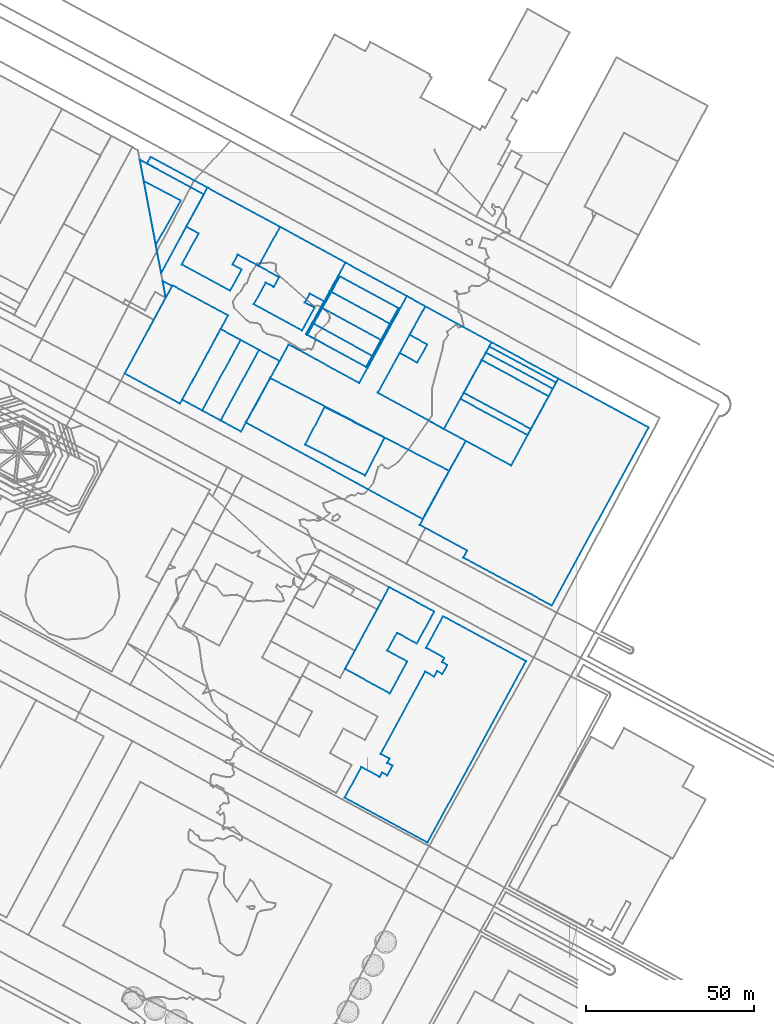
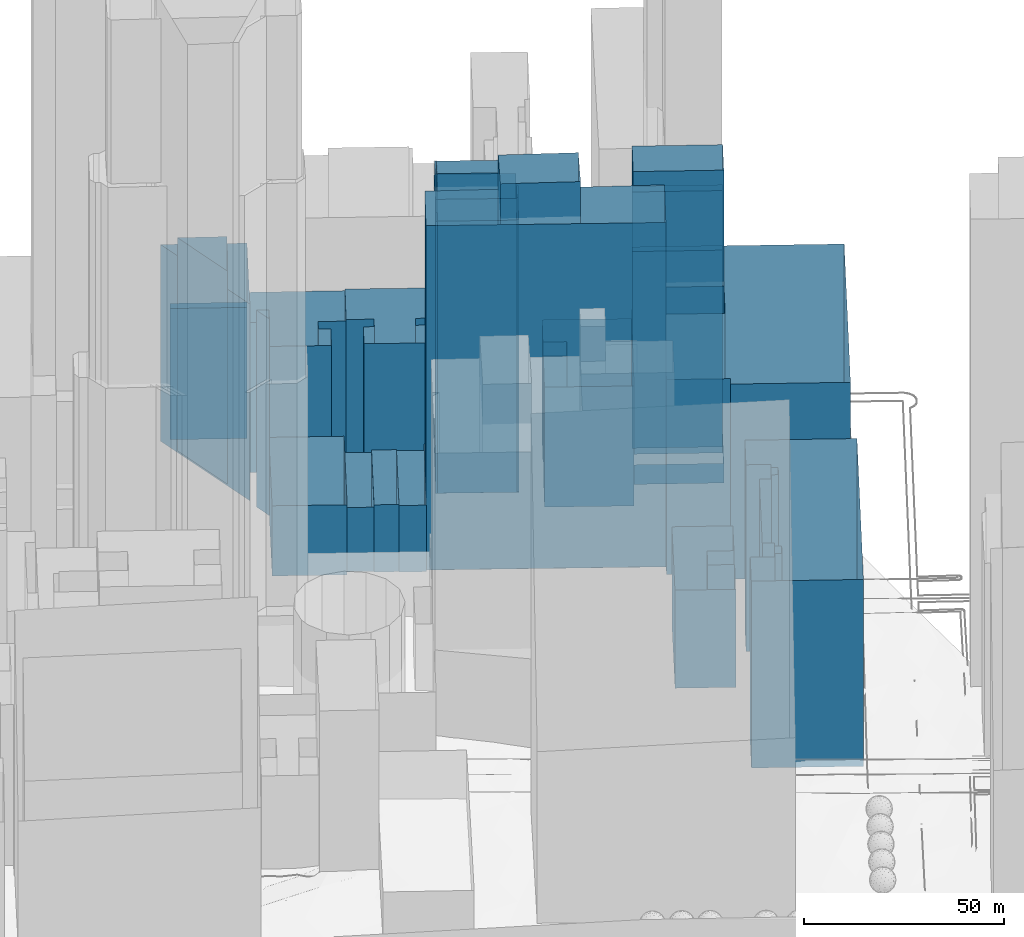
# Not in any storey, part 33 of 80: 33 walls.
"""IFC4 building model written with IfcOpenShell, lengths in metres."""

from ifc_helpers import new_model, si_unit, frame, origin_with_axes, place, context, subcontext, project, spatial, polygons, element, save


model = new_model("IFC4")

# Units and contexts
model_context = context("Model", 3, precision=1e-05, world=origin_with_axes())
body_context = subcontext(model_context, "Body", "Model", "MODEL_VIEW")
ifc_project = project(units=[si_unit("AREAUNIT", "SQUARE_METRE"), si_unit("LENGTHUNIT", "METRE")], contexts=[model_context])

# Sites, building
site_1_placement = place(None, origin_with_axes())
site_1 = spatial("IfcSite", under=ifc_project, at=site_1_placement, Name="Topoexport Site")
site_2_placement = place(site_1_placement, origin_with_axes())
site_2 = spatial("IfcSite", under=site_1, at=site_2_placement, Name="TPX_BATIMENTS")
building_1_placement = place(site_2_placement, frame((266.3530254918, 299.6136626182, 20.7337095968), z_axis=(0.0, 0.0, 1.0), x_axis=(1.0, 0.0, 0.0)))
building_1 = spatial("IfcBuilding", under=site_2, at=building_1_placement, Name="Batiment 129", CompositionType="ELEMENT")

# Wall
wall_1_placement = place(None, frame((266.3530254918, 299.6136626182, 20.7337095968), z_axis=(0.0, 0.0, 1.0), x_axis=(1.0, 0.0, 0.0)))
element("IfcWall", 1, at=wall_1_placement, inside=building_1, Name="Mur 0", context=body_context, shape_type="Tessellation", body=[
    polygons([(0.0, 0.0, 0.0), (6.0824874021, -3.3043014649, 0.0), (17.4959425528, 17.6674815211, 0.0), (11.3880168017, 20.9825795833, 0.0), (0.0, 0.0, 20.2999992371), (6.0824874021, -3.3043014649, 20.2999992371), (17.4959425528, 17.6674815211, 20.2999992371), (11.3880168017, 20.9825795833, 20.2999992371)], [[[6, 5, 2]], [[2, 5, 1]], [[7, 6, 3]], [[3, 6, 2]], [[5, 8, 1]], [[1, 8, 4]], [[8, 7, 4]], [[4, 7, 3]]]),
])

# Building
building_2_placement = place(site_2_placement, frame((273.8050706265, 299.0342517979, 19.0727612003), z_axis=(0.0, 0.0, 1.0), x_axis=(1.0, 0.0, 0.0)))
building_2 = spatial("IfcBuilding", under=site_2, at=building_2_placement, Name="Batiment 130", CompositionType="ELEMENT")

# Wall
wall_2_placement = place(None, frame((273.8050706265, 299.0342517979, 19.0727612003), z_axis=(0.0, 0.0, 1.0), x_axis=(1.0, 0.0, 0.0)))
element("IfcWall", 2, at=wall_2_placement, inside=building_2, Name="Mur 0", context=body_context, shape_type="Tessellation", body=[
    polygons([(0.0, 0.0, 0.0), (52.5953372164, -28.7420789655, 0.0), (65.4084536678, -5.4668426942, 0.0), (39.2593969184, 8.8281193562, 0.0), (53.4200569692, 34.5393207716, 0.0), (47.9405768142, 37.5286335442, 0.0), (33.7387369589, 11.728145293, 0.0), (12.77205858, 23.1858472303, 0.0), (0.0, 0.0, 20.0), (52.5953372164, -28.7420789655, 20.0), (65.4084536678, -5.4668426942, 20.0), (39.2593969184, 8.8281193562, 20.0), (53.4200569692, 34.5393207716, 20.0), (47.9405768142, 37.5286335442, 20.0), (33.7387369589, 11.728145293, 20.0), (12.77205858, 23.1858472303, 20.0)], [[[10, 9, 2]], [[2, 9, 1]], [[11, 10, 3]], [[3, 10, 2]], [[12, 11, 4]], [[4, 11, 3]], [[13, 12, 5]], [[5, 12, 4]], [[14, 13, 6]], [[6, 13, 5]], [[15, 14, 7]], [[7, 14, 6]], [[9, 16, 1]], [[1, 16, 8]], [[16, 15, 8]], [[8, 15, 7]]]),
])

# Building
building_3_placement = place(site_2_placement, frame((291.481800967, 292.4676192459, 19.6985343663), z_axis=(0.0, 0.0, 1.0), x_axis=(1.0, 0.0, 0.0)))
building_3 = spatial("IfcBuilding", under=site_2, at=building_3_placement, Name="Batiment 131", CompositionType="ELEMENT")

# Wall
wall_3_placement = place(None, frame((291.481800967, 292.4676192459, 19.6985343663), z_axis=(0.0, 0.0, 1.0), x_axis=(1.0, 0.0, 0.0)))
element("IfcWall", 3, at=wall_3_placement, inside=building_3, Name="Mur 0", context=body_context, shape_type="Tessellation", body=[
    polygons([(0.0, 0.0, 0.0), (17.8254281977, -9.1849936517, 0.0), (23.6378591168, 2.0071491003, 0.0), (5.7876459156, 11.1474308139, 0.0), (0.0, 0.0, 115.0), (17.8254281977, -9.1849936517, 115.0), (23.6378591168, 2.0071491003, 115.0), (5.7876459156, 11.1474308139, 115.0)], [[[6, 5, 2]], [[2, 5, 1]], [[7, 6, 3]], [[3, 6, 2]], [[5, 8, 1]], [[1, 8, 4]], [[8, 7, 4]], [[4, 7, 3]]]),
])

# Building
building_4_placement = place(site_2_placement, frame((273.8050706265, 299.0342517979, 19.1231456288), z_axis=(0.0, 0.0, 1.0), x_axis=(1.0, 0.0, 0.0)))
building_4 = spatial("IfcBuilding", under=site_2, at=building_4_placement, Name="Batiment 132", CompositionType="ELEMENT")

# Wall
wall_4_placement = place(None, frame((273.8050706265, 299.0342517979, 19.1231456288), z_axis=(0.0, 0.0, 1.0), x_axis=(1.0, 0.0, 0.0)))
element("IfcWall", 4, at=wall_4_placement, inside=building_4, Name="Mur 0", context=body_context, shape_type="Tessellation", body=[
    polygons([(0.0, 0.0, 0.0), (52.5953372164, -28.7420789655, 0.0), (60.4982423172, -14.3947384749, 0.0), (7.2580721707, 13.1851425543, 0.0), (0.0, 0.0, 105.0), (52.5953372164, -28.7420789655, 105.0), (60.4982423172, -14.3947384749, 105.0), (7.2580721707, 13.1851425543, 105.0)], [[[6, 5, 2]], [[2, 5, 1]], [[7, 6, 3]], [[3, 6, 2]], [[5, 8, 1]], [[1, 8, 4]], [[8, 7, 4]], [[4, 7, 3]]]),
])

# Building
building_5_placement = place(site_2_placement, frame((313.0644675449, 307.8623711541, 19.1866417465), z_axis=(0.0, 0.0, 1.0), x_axis=(1.0, 0.0, 0.0)))
building_5 = spatial("IfcBuilding", under=site_2, at=building_5_placement, Name="Batiment 133", CompositionType="ELEMENT")

# Wall
wall_5_placement = place(None, frame((313.0644675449, 307.8623711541, 19.1866417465), z_axis=(0.0, 0.0, 1.0), x_axis=(1.0, 0.0, 0.0)))
element("IfcWall", 5, at=wall_5_placement, inside=building_5, Name="Mur 0", context=body_context, shape_type="Tessellation", body=[
    polygons([(0.0, 0.0, 0.0), (19.658559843, -10.751216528, 0.0), (33.8190454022, 14.9711235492, 0.0), (14.1606600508, 25.7112014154, 0.0), (9.4817474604, 17.2189943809, 0.0), (14.7234881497, 14.349038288, 0.0), (11.7557583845, 8.9631871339, 0.0), (6.5141444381, 11.8220445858, 0.0), (0.0, 0.0, 36.5999984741), (19.658559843, -10.751216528, 36.5999984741), (33.8190454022, 14.9711235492, 36.5999984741), (14.1606600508, 25.7112014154, 36.5999984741), (9.4817474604, 17.2189943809, 36.5999984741), (14.7234881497, 14.349038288, 36.5999984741), (11.7557583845, 8.9631871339, 36.5999984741), (6.5141444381, 11.8220445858, 36.5999984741)], [[[10, 9, 2]], [[2, 9, 1]], [[11, 10, 3]], [[3, 10, 2]], [[12, 11, 4]], [[4, 11, 3]], [[13, 12, 5]], [[5, 12, 4]], [[14, 13, 6]], [[6, 13, 5]], [[15, 14, 7]], [[7, 14, 6]], [[9, 16, 1]], [[1, 16, 8]], [[16, 15, 8]], [[8, 15, 7]]]),
])

# Building
building_6_placement = place(site_2_placement, frame((337.6756915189, 306.0173396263, 18.6021443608), z_axis=(0.0, 0.0, 1.0), x_axis=(1.0, 0.0, 0.0)))
building_6 = spatial("IfcBuilding", under=site_2, at=building_6_placement, Name="Batiment 134", CompositionType="ELEMENT")

# Wall
wall_6_placement = place(None, frame((337.6756915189, 306.0173396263, 18.6021443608), z_axis=(0.0, 0.0, 1.0), x_axis=(1.0, 0.0, 0.0)))
element("IfcWall", 6, at=wall_6_placement, inside=building_6, Name="Mur 0", context=body_context, shape_type="Tessellation", body=[
    polygons([(0.0, 0.0, 0.0), (19.9288194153, -10.7591061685, 0.0), (29.0941508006, 6.0787837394, 0.0), (9.2078214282, 16.816155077, 0.0), (0.0, 0.0, 6.0), (19.9288194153, -10.7591061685, 6.0), (29.0941508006, 6.0787837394, 6.0), (9.2078214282, 16.816155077, 6.0)], [[[6, 5, 2]], [[2, 5, 1]], [[7, 6, 3]], [[3, 6, 2]], [[5, 8, 1]], [[1, 8, 4]], [[8, 7, 4]], [[4, 7, 3]]]),
])

# Building
building_7_placement = place(site_2_placement, frame((337.6756915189, 306.0173396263, 18.6175268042), z_axis=(0.0, 0.0, 1.0), x_axis=(1.0, 0.0, 0.0)))
building_7 = spatial("IfcBuilding", under=site_2, at=building_7_placement, Name="Batiment 135", CompositionType="ELEMENT")

# Wall
wall_7_placement = place(None, frame((337.6756915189, 306.0173396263, 18.6175268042), z_axis=(0.0, 0.0, 1.0), x_axis=(1.0, 0.0, 0.0)))
element("IfcWall", 7, at=wall_7_placement, inside=building_7, Name="Mur 0", context=body_context, shape_type="Tessellation", body=[
    polygons([(0.0, 0.0, 0.0), (19.9288194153, -10.7591061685, 0.0), (20.9205700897, -8.9378836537, 0.0), (0.9833137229, 1.8211215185, 0.0), (0.0, 0.0, 60.0), (19.9288194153, -10.7591061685, 60.0), (20.9205700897, -8.9378836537, 60.0), (0.9833137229, 1.8211215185, 60.0)], [[[6, 5, 2]], [[2, 5, 1]], [[7, 6, 3]], [[3, 6, 2]], [[5, 8, 1]], [[1, 8, 4]], [[8, 7, 4]], [[4, 7, 3]]]),
])

# Building
building_8_placement = place(site_2_placement, frame((338.6590052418, 307.8384611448, 18.5825367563), z_axis=(0.0, 0.0, 1.0), x_axis=(1.0, 0.0, 0.0)))
building_8 = spatial("IfcBuilding", under=site_2, at=building_8_placement, Name="Batiment 136", CompositionType="ELEMENT")

# Wall
wall_8_placement = place(None, frame((338.6590052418, 307.8384611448, 18.5825367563), z_axis=(0.0, 0.0, 1.0), x_axis=(1.0, 0.0, 0.0)))
element("IfcWall", 8, at=wall_8_placement, inside=building_8, Name="Mur 0", context=body_context, shape_type="Tessellation", body=[
    polygons([(0.0, 0.0, 0.0), (19.9372563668, -10.7590051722, 0.0), (25.2348095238, -1.0272163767, 0.0), (5.3058816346, 9.7429734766, 0.0), (0.0, 0.0, 94.0), (19.9372563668, -10.7590051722, 94.0), (25.2348095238, -1.0272163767, 94.0), (5.3058816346, 9.7429734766, 94.0)], [[[6, 5, 2]], [[2, 5, 1]], [[7, 6, 3]], [[3, 6, 2]], [[5, 8, 1]], [[1, 8, 4]], [[8, 7, 4]], [[4, 7, 3]]]),
])

# Building
building_9_placement = place(site_2_placement, frame((325.5761584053, 268.583928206, 18.0179124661), z_axis=(0.0, 0.0, 1.0), x_axis=(1.0, 0.0, 0.0)))
building_9 = spatial("IfcBuilding", under=site_2, at=building_9_placement, Name="Batiment 137", CompositionType="ELEMENT")

# Wall
wall_9_placement = place(None, frame((325.5761584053, 268.583928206, 18.0179124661), z_axis=(0.0, 0.0, 1.0), x_axis=(1.0, 0.0, 0.0)))
element("IfcWall", 9, at=wall_9_placement, inside=building_9, Name="Mur 0", context=body_context, shape_type="Tessellation", body=[
    polygons([(0.0, 0.0, 0.0), (14.076432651, -7.6409558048, 0.0), (12.9441609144, -9.7191640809, 0.0), (39.2536749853, -24.0010695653, 0.0), (68.012848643, 28.9476731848, 0.0), (41.1936839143, 43.5121951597, 0.0), (27.1697109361, 17.669281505, 0.0), (13.637365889, 24.9834808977, 0.0), (0.0, 0.0, 59.5), (14.076432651, -7.6409558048, 59.5), (12.9441609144, -9.7191640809, 59.5), (39.2536749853, -24.0010695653, 59.5), (68.012848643, 28.9476731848, 59.5), (41.1936839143, 43.5121951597, 59.5), (27.1697109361, 17.669281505, 59.5), (13.637365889, 24.9834808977, 59.5)], [[[10, 9, 2]], [[2, 9, 1]], [[11, 10, 3]], [[3, 10, 2]], [[12, 11, 4]], [[4, 11, 3]], [[13, 12, 5]], [[5, 12, 4]], [[14, 13, 6]], [[6, 13, 5]], [[15, 14, 7]], [[7, 14, 6]], [[9, 16, 1]], [[1, 16, 8]], [[16, 15, 8]], [[8, 15, 7]]]),
])

# Building
building_10_placement = place(site_2_placement, frame((303.3084719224, 225.7363797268, 17.1584864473), z_axis=(0.0, 0.0, 1.0), x_axis=(1.0, 0.0, 0.0)))
building_10 = spatial("IfcBuilding", under=site_2, at=building_10_placement, Name="Batiment 143", CompositionType="ELEMENT")

# Wall
wall_10_placement = place(None, frame((303.3084719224, 225.7363797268, 17.1584864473), z_axis=(0.0, 0.0, 1.0), x_axis=(1.0, 0.0, 0.0)))
element("IfcWall", 10, at=wall_10_placement, inside=building_10, Name="Mur 0", context=body_context, shape_type="Tessellation", body=[
    polygons([(0.0, 0.0, 0.0), (13.3627175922, -7.2385258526, 0.0), (18.4944225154, 2.2470477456, 0.0), (12.598836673, 5.4424640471, 0.0), (15.4662305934, 10.7494256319, 0.0), (21.3872638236, 7.5432057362, 0.0), (26.5521917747, 17.0735816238, 0.0), (13.1557423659, 24.3116903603, 0.0), (0.0, 0.0, 29.8999996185), (13.3627175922, -7.2385258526, 29.8999996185), (18.4944225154, 2.2470477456, 29.8999996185), (12.598836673, 5.4424640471, 29.8999996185), (15.4662305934, 10.7494256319, 29.8999996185), (21.3872638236, 7.5432057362, 29.8999996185), (26.5521917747, 17.0735816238, 29.8999996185), (13.1557423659, 24.3116903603, 29.8999996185)], [[[10, 9, 2]], [[2, 9, 1]], [[11, 10, 3]], [[3, 10, 2]], [[12, 11, 4]], [[4, 11, 3]], [[13, 12, 5]], [[5, 12, 4]], [[14, 13, 6]], [[6, 13, 5]], [[15, 14, 7]], [[7, 14, 6]], [[9, 16, 1]], [[1, 16, 8]], [[16, 15, 8]], [[8, 15, 7]]]),
])

# Building
building_11_placement = place(site_2_placement, frame((303.2307671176, 187.4548822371, 16.0810150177), z_axis=(0.0, 0.0, 1.0), x_axis=(1.0, 0.0, 0.0)))
building_11 = spatial("IfcBuilding", under=site_2, at=building_11_placement, Name="Batiment 145", CompositionType="ELEMENT")

# Wall
wall_11_placement = place(None, frame((303.2307671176, 187.4548822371, 16.0810150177), z_axis=(0.0, 0.0, 1.0), x_axis=(1.0, 0.0, 0.0)))
element("IfcWall", 11, at=wall_11_placement, inside=building_11, Name="Mur 0", context=body_context, shape_type="Tessellation", body=[
    polygons([(0.0, 0.0, 0.0), (24.6276355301, -13.3690300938, 0.0), (53.9161640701, 40.5627141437, 0.0), (29.2885192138, 53.9427467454, 0.0), (24.1811245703, 44.5462660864, 0.0), (29.6519839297, 41.5790599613, 0.0), (28.9577343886, 40.3053169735, 0.0), (30.5208380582, 39.4575443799, 0.0), (29.0497451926, 36.7536647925, 0.0), (27.4866411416, 37.6014376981, 0.0), (26.6272039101, 36.0149079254, 0.0), (23.9513070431, 37.4603469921, 0.0), (10.6788082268, 13.0251545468, 0.0), (13.3548402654, 11.5686098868, 0.0), (12.6853890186, 10.3395664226, 0.0), (14.2400565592, 9.4916920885, 0.0), (12.6699936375, 6.5868231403, 0.0), (11.140776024, 7.4238918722, 0.0), (10.4549602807, 6.1502490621, 0.0), (4.9585038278, 9.1393762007, 0.0), (0.0, 0.0, 57.0), (24.6276355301, -13.3690300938, 57.0), (53.9161640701, 40.5627141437, 57.0), (29.2885192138, 53.9427467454, 57.0), (24.1811245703, 44.5462660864, 57.0), (29.6519839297, 41.5790599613, 57.0), (28.9577343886, 40.3053169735, 57.0), (30.5208380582, 39.4575443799, 57.0), (29.0497451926, 36.7536647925, 57.0), (27.4866411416, 37.6014376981, 57.0), (26.6272039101, 36.0149079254, 57.0), (23.9513070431, 37.4603469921, 57.0), (10.6788082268, 13.0251545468, 57.0), (13.3548402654, 11.5686098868, 57.0), (12.6853890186, 10.3395664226, 57.0), (14.2400565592, 9.4916920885, 57.0), (12.6699936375, 6.5868231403, 57.0), (11.140776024, 7.4238918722, 57.0), (10.4549602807, 6.1502490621, 57.0), (4.9585038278, 9.1393762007, 57.0)], [[[22, 21, 2]], [[2, 21, 1]], [[23, 22, 3]], [[3, 22, 2]], [[24, 23, 4]], [[4, 23, 3]], [[25, 24, 5]], [[5, 24, 4]], [[26, 25, 6]], [[6, 25, 5]], [[27, 26, 7]], [[7, 26, 6]], [[28, 27, 8]], [[8, 27, 7]], [[29, 28, 9]], [[9, 28, 8]], [[30, 29, 10]], [[10, 29, 9]], [[31, 30, 11]], [[11, 30, 10]], [[32, 31, 12]], [[12, 31, 11]], [[33, 32, 13]], [[13, 32, 12]], [[34, 33, 14]], [[14, 33, 13]], [[35, 34, 15]], [[15, 34, 14]], [[36, 35, 16]], [[16, 35, 15]], [[37, 36, 17]], [[17, 36, 16]], [[38, 37, 18]], [[18, 37, 17]], [[39, 38, 19]], [[19, 38, 18]], [[21, 40, 1]], [[1, 40, 20]], [[40, 39, 20]], [[20, 39, 19]]]),
])

# Building
building_12_placement = place(site_2_placement, frame((291.7498532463, 325.277922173, 20.2810071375), z_axis=(0.0, 0.0, 1.0), x_axis=(1.0, 0.0, 0.0)))
building_12 = spatial("IfcBuilding", under=site_2, at=building_12_placement, Name="Batiment 229", CompositionType="ELEMENT")

# Wall
wall_12_placement = place(None, frame((291.7498532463, 325.277922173, 20.2810071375), z_axis=(0.0, 0.0, 1.0), x_axis=(1.0, 0.0, 0.0)))
element("IfcWall", 12, at=wall_12_placement, inside=building_12, Name="Mur 0", context=body_context, shape_type="Tessellation", body=[
    polygons([(0.0, 0.0, 0.0), (18.2821181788, -9.9901391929, 0.0), (29.9957941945, 11.2849631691, 0.0), (11.7137108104, 21.2750732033, 0.0), (0.0, 0.0, 6.0), (18.2821181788, -9.9901391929, 6.0), (29.9957941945, 11.2849631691, 6.0), (11.7137108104, 21.2750732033, 6.0)], [[[6, 5, 2]], [[2, 5, 1]], [[7, 6, 3]], [[3, 6, 2]], [[5, 8, 1]], [[1, 8, 4]], [[8, 7, 4]], [[4, 7, 3]]]),
])

# Building
building_13_placement = place(site_2_placement, frame((296.5802961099, 333.0835325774, 20.3677468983), z_axis=(0.0, 0.0, 1.0), x_axis=(1.0, 0.0, 0.0)))
building_13 = spatial("IfcBuilding", under=site_2, at=building_13_placement, Name="Batiment 230", CompositionType="ELEMENT")

# Wall
wall_13_placement = place(None, frame((296.5802961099, 333.0835325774, 20.3677468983), z_axis=(0.0, 0.0, 1.0), x_axis=(1.0, 0.0, 0.0)))
element("IfcWall", 13, at=wall_13_placement, inside=building_13, Name="Mur 0", context=body_context, shape_type="Tessellation", body=[
    polygons([(0.0, 0.0, 0.0), (17.4583642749, -9.5667304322, 0.0), (20.0861254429, -4.7066486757, 0.0), (2.6876256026, 4.7941587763, 0.0), (0.0, 0.0, 91.0), (17.4583642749, -9.5667304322, 91.0), (20.0861254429, -4.7066486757, 91.0), (2.6876256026, 4.7941587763, 91.0)], [[[6, 5, 2]], [[2, 5, 1]], [[7, 6, 3]], [[3, 6, 2]], [[5, 8, 1]], [[1, 8, 4]], [[8, 7, 4]], [[4, 7, 3]]]),
])

# Building
building_14_placement = place(site_2_placement, frame((292.1322472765, 325.0603282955, 20.29910505), z_axis=(0.0, 0.0, 1.0), x_axis=(1.0, 0.0, 0.0)))
building_14 = spatial("IfcBuilding", under=site_2, at=building_14_placement, Name="Batiment 231", CompositionType="ELEMENT")

# Wall
wall_14_placement = place(None, frame((292.1322472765, 325.0603282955, 20.29910505), z_axis=(0.0, 0.0, 1.0), x_axis=(1.0, 0.0, 0.0)))
element("IfcWall", 14, at=wall_14_placement, inside=building_14, Name="Mur 0", context=body_context, shape_type="Tessellation", body=[
    polygons([(0.0, 0.0, 0.0), (17.4495487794, -9.5335370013, 0.0), (27.0802443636, 7.9425396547, 0.0), (9.6733115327, 17.4432428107, 0.0), (0.0, 0.0, 83.0), (17.4495487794, -9.5335370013, 83.0), (27.0802443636, 7.9425396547, 83.0), (9.6733115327, 17.4432428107, 83.0)], [[[6, 5, 2]], [[2, 5, 1]], [[7, 6, 3]], [[3, 6, 2]], [[5, 8, 1]], [[1, 8, 4]], [[8, 7, 4]], [[4, 7, 3]]]),
])

# Building
building_15_placement = place(site_2_placement, frame((294.0094084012, 328.4128587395, 20.2723875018), z_axis=(0.0, 0.0, 1.0), x_axis=(1.0, 0.0, 0.0)))
building_15 = spatial("IfcBuilding", under=site_2, at=building_15_placement, Name="Batiment 232", CompositionType="ELEMENT")

# Wall
wall_15_placement = place(None, frame((294.0094084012, 328.4128587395, 20.2723875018), z_axis=(0.0, 0.0, 1.0), x_axis=(1.0, 0.0, 0.0)))
element("IfcWall", 15, at=wall_15_placement, inside=building_15, Name="Mur 0", context=body_context, shape_type="Tessellation", body=[
    polygons([(0.0, 0.0, 0.0), (17.4333093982, -9.5892328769, 0.0), (22.6570131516, -0.0359748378, 0.0), (5.2585133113, 9.4648326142, 0.0), (0.0, 0.0, 87.0), (17.4333093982, -9.5892328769, 87.0), (22.6570131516, -0.0359748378, 87.0), (5.2585133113, 9.4648326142, 87.0)], [[[6, 5, 2]], [[2, 5, 1]], [[7, 6, 3]], [[3, 6, 2]], [[5, 8, 1]], [[1, 8, 4]], [[8, 7, 4]], [[4, 7, 3]]]),
])

# Building
building_16_placement = place(site_2_placement, frame((296.1724525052, 333.3119322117, 20.3484595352), z_axis=(0.0, 0.0, 1.0), x_axis=(1.0, 0.0, 0.0)))
building_16 = spatial("IfcBuilding", under=site_2, at=building_16_placement, Name="Batiment 233", CompositionType="ELEMENT")

# Wall
wall_16_placement = place(None, frame((296.1724525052, 333.3119322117, 20.3484595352), z_axis=(0.0, 0.0, 1.0), x_axis=(1.0, 0.0, 0.0)))
element("IfcWall", 16, at=wall_16_placement, inside=building_16, Name="Mur 0", context=body_context, shape_type="Tessellation", body=[
    polygons([(0.0, 0.0, 0.0), (0.4078436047, -0.2283996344, 0.0), (3.0954692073, 4.5657591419, 0.0), (2.6536065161, 4.8159671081, 0.0), (0.0, 0.0, 91.0), (0.4078436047, -0.2283996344, 91.0), (3.0954692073, 4.5657591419, 91.0), (2.6536065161, 4.8159671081, 91.0)], [[[6, 5, 2]], [[2, 5, 1]], [[7, 6, 3]], [[3, 6, 2]], [[5, 8, 1]], [[1, 8, 4]], [[8, 7, 4]], [[4, 7, 3]]]),
])

# Building
building_17_placement = place(site_2_placement, frame((298.8260590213, 338.1278993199, 20.4512900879), z_axis=(0.0, 0.0, 1.0), x_axis=(1.0, 0.0, 0.0)))
building_17 = spatial("IfcBuilding", under=site_2, at=building_17_placement, Name="Batiment 234", CompositionType="ELEMENT")

# Wall
wall_17_placement = place(None, frame((298.8260590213, 338.1278993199, 20.4512900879), z_axis=(0.0, 0.0, 1.0), x_axis=(1.0, 0.0, 0.0)))
element("IfcWall", 17, at=wall_17_placement, inside=building_17, Name="Mur 0", context=body_context, shape_type="Tessellation", body=[
    polygons([(0.0, 0.0, 0.0), (0.4418626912, -0.2502079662, 0.0), (2.9794997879, 4.3756717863, 0.0), (2.5462067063, 4.6148771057, 0.0), (0.0, 0.0, 83.0), (0.4418626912, -0.2502079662, 83.0), (2.9794997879, 4.3756717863, 83.0), (2.5462067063, 4.6148771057, 83.0)], [[[6, 5, 2]], [[2, 5, 1]], [[7, 6, 3]], [[3, 6, 2]], [[5, 8, 1]], [[1, 8, 4]], [[8, 7, 4]], [[4, 7, 3]]]),
])

# Building
building_18_placement = place(site_2_placement, frame((244.4280234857, 376.0307569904, 22.4522062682), z_axis=(0.0, 0.0, 1.0), x_axis=(1.0, 0.0, 0.0)))
building_18 = spatial("IfcBuilding", under=site_2, at=building_18_placement, Name="Batiment 240", CompositionType="ELEMENT")

# Wall
wall_18_placement = place(None, frame((244.4280234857, 376.0307569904, 22.4522062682), z_axis=(0.0, 0.0, 1.0), x_axis=(1.0, 0.0, 0.0)))
element("IfcWall", 18, at=wall_18_placement, inside=building_18, Name="Mur 0", context=body_context, shape_type="Tessellation", body=[
    polygons([(0.0, 0.0, 0.0), (16.9132443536, -9.1624091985, 0.0), (17.9876011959, -7.1848068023, 0.0), (1.0744890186, 1.9664991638, 0.0), (0.0, 0.0, 40.0), (16.9132443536, -9.1624091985, 40.0), (17.9876011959, -7.1848068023, 40.0), (1.0744890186, 1.9664991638, 40.0)], [[[6, 5, 2]], [[2, 5, 1]], [[7, 6, 3]], [[3, 6, 2]], [[5, 8, 1]], [[1, 8, 4]], [[8, 7, 4]], [[4, 7, 3]]]),
])

# Building
building_19_placement = place(site_2_placement, frame((242.3300029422, 377.1498806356, 22.0498553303), z_axis=(0.0, 0.0, 1.0), x_axis=(1.0, 0.0, 0.0)))
building_19 = spatial("IfcBuilding", under=site_2, at=building_19_placement, Name="Batiment 241", CompositionType="ELEMENT")

# Wall
wall_19_placement = place(None, frame((242.3300029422, 377.1498806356, 22.0498553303), z_axis=(0.0, 0.0, 1.0), x_axis=(1.0, 0.0, 0.0)))
element("IfcWall", 19, at=wall_19_placement, inside=building_19, Name="Mur 0", context=body_context, shape_type="Tessellation", body=[
    polygons([(0.0, 0.0, 0.0), (1.1962854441, -6.3254728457, 0.0), (6.3508708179, -33.6325728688, 0.0), (19.0112648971, -10.2815328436, 0.0), (0.0, 0.0, 60.0), (1.1962854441, -6.3254728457, 60.0), (6.3508708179, -33.6325728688, 60.0), (19.0112648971, -10.2815328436, 60.0)], [[[6, 5, 2]], [[2, 5, 1]], [[7, 6, 3]], [[3, 6, 2]], [[5, 8, 1]], [[1, 8, 4]], [[8, 7, 4]], [[4, 7, 3]]]),
])

# Building
building_20_placement = place(site_2_placement, frame((243.5262883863, 370.8244077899, 22.5439694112), z_axis=(0.0, 0.0, 1.0), x_axis=(1.0, 0.0, 0.0)))
building_20 = spatial("IfcBuilding", under=site_2, at=building_20_placement, Name="Batiment 242", CompositionType="ELEMENT")

# Wall
wall_20_placement = place(None, frame((243.5262883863, 370.8244077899, 22.5439694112), z_axis=(0.0, 0.0, 1.0), x_axis=(1.0, 0.0, 0.0)))
element("IfcWall", 20, at=wall_20_placement, inside=building_20, Name="Mur 0", context=body_context, shape_type="Tessellation", body=[
    polygons([(0.0, 0.0, 0.0), (3.5714703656, -18.9322105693, 0.0), (10.9734042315, -5.7787257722, 0.0), (0.0, 0.0, 65.0), (3.5714703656, -18.9322105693, 65.0), (10.9734042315, -5.7787257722, 65.0)], [[[5, 4, 2]], [[2, 4, 1]], [[4, 6, 1]], [[1, 6, 3]], [[6, 5, 3]], [[3, 5, 2]]]),
])

# Building
building_21_placement = place(site_2_placement, frame((254.7632851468, 346.0194741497, 19.7596316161), z_axis=(0.0, 0.0, 1.0), x_axis=(1.0, 0.0, 0.0)))
building_21 = spatial("IfcBuilding", under=site_2, at=building_21_placement, Name="Batiment 243", CompositionType="ELEMENT")

# Wall
wall_21_placement = place(None, frame((254.7632851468, 346.0194741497, 19.7596316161), z_axis=(0.0, 0.0, 1.0), x_axis=(1.0, 0.0, 0.0)))
element("IfcWall", 21, at=wall_21_placement, inside=building_21, Name="Mur 0", context=body_context, shape_type="Tessellation", body=[
    polygons([(0.0, 0.0, 0.0), (14.39900645, -7.8149674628, 0.0), (17.8285654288, -1.4911744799, 0.0), (15.1187039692, -0.0239066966, 0.0), (16.7053721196, 2.9033513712, 0.0), (22.8641716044, -0.4333637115, 0.0), (29.2543177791, 11.1651612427, 0.0), (7.6523395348, 22.8264760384, 0.0), (1.3634529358, 11.2291484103, 0.0), (5.0248078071, 9.2400392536, 0.0), (0.0, 0.0, 45.7000007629), (14.39900645, -7.8149674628, 45.7000007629), (17.8285654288, -1.4911744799, 45.7000007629), (15.1187039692, -0.0239066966, 45.7000007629), (16.7053721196, 2.9033513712, 45.7000007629), (22.8641716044, -0.4333637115, 45.7000007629), (29.2543177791, 11.1651612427, 45.7000007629), (7.6523395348, 22.8264760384, 45.7000007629), (1.3634529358, 11.2291484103, 45.7000007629), (5.0248078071, 9.2400392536, 45.7000007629)], [[[12, 11, 2]], [[2, 11, 1]], [[13, 12, 3]], [[3, 12, 2]], [[14, 13, 4]], [[4, 13, 3]], [[15, 14, 5]], [[5, 14, 4]], [[16, 15, 6]], [[6, 15, 5]], [[17, 16, 7]], [[7, 16, 6]], [[18, 17, 8]], [[8, 17, 7]], [[19, 18, 9]], [[9, 18, 8]], [[11, 20, 1]], [[1, 20, 10]], [[20, 19, 10]], [[10, 19, 9]]]),
])

# Building
building_22_placement = place(site_2_placement, frame((276.2236412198, 334.2010560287, 19.6540468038), z_axis=(0.0, 0.0, 1.0), x_axis=(1.0, 0.0, 0.0)))
building_22 = spatial("IfcBuilding", under=site_2, at=building_22_placement, Name="Batiment 244", CompositionType="ELEMENT")

# Wall
wall_22_placement = place(None, frame((276.2236412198, 334.2010560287, 19.6540468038), z_axis=(0.0, 0.0, 1.0), x_axis=(1.0, 0.0, 0.0)))
element("IfcWall", 22, at=wall_22_placement, inside=building_22, Name="Mur 0", context=body_context, shape_type="Tessellation", body=[
    polygons([(0.0, 0.0, 0.0), (14.3402296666, -7.8378155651, 0.0), (18.0600146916, -1.0665434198, 0.0), (15.1800483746, 0.5097591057, 0.0), (16.6432091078, 3.1691298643, 0.0), (20.9078444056, 0.8428913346, 0.0), (27.2399228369, 12.3519393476, 0.0), (7.7939617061, 22.9835793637, 0.0), (1.4038155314, 11.3850544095, 0.0), (7.5291182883, 8.0257498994, 0.0), (5.9419365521, 5.1428922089, 0.0), (3.554736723, 6.4473781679, 0.0), (0.0, 0.0, 46.2999992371), (14.3402296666, -7.8378155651, 46.2999992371), (18.0600146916, -1.0665434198, 46.2999992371), (15.1800483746, 0.5097591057, 46.2999992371), (16.6432091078, 3.1691298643, 46.2999992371), (20.9078444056, 0.8428913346, 46.2999992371), (27.2399228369, 12.3519393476, 46.2999992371), (7.7939617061, 22.9835793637, 46.2999992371), (1.4038155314, 11.3850544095, 46.2999992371), (7.5291182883, 8.0257498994, 46.2999992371), (5.9419365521, 5.1428922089, 46.2999992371), (3.554736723, 6.4473781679, 46.2999992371)], [[[14, 13, 2]], [[2, 13, 1]], [[15, 14, 3]], [[3, 14, 2]], [[16, 15, 4]], [[4, 15, 3]], [[17, 16, 5]], [[5, 16, 4]], [[18, 17, 6]], [[6, 17, 5]], [[19, 18, 7]], [[7, 18, 6]], [[20, 19, 8]], [[8, 19, 7]], [[21, 20, 9]], [[9, 20, 8]], [[22, 21, 10]], [[10, 21, 9]], [[23, 22, 11]], [[11, 22, 10]], [[13, 24, 1]], [[1, 24, 12]], [[24, 23, 12]], [[12, 23, 11]]]),
])

# Building
building_23_placement = place(site_2_placement, frame((249.1568769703, 341.0581442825, 21.493715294), z_axis=(0.0, 0.0, 1.0), x_axis=(1.0, 0.0, 0.0)))
building_23 = spatial("IfcBuilding", under=site_2, at=building_23_placement, Name="Batiment 245", CompositionType="ELEMENT")

# Wall
wall_23_placement = place(None, frame((249.1568769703, 341.0581442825, 21.493715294), z_axis=(0.0, 0.0, 1.0), x_axis=(1.0, 0.0, 0.0)))
element("IfcWall", 23, at=wall_23_placement, inside=building_23, Name="Mur 0", context=body_context, shape_type="Tessellation", body=[
    polygons([(0.0, 0.0, 0.0), (0.8846148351, -4.9302132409, 0.0), (2.7518015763, -1.444582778, 0.0), (0.0, 0.0, 60.0), (0.8846148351, -4.9302132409, 60.0), (2.7518015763, -1.444582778, 60.0)], [[[5, 4, 2]], [[2, 4, 1]], [[4, 6, 1]], [[1, 6, 3]], [[6, 5, 3]], [[3, 5, 2]]]),
])

# Building
building_24_placement = place(site_2_placement, frame((237.8104708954, 313.5923738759, 21.0660999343), z_axis=(0.0, 0.0, 1.0), x_axis=(1.0, 0.0, 0.0)))
building_24 = spatial("IfcBuilding", under=site_2, at=building_24_placement, Name="Batiment 246", CompositionType="ELEMENT")

# Wall
wall_24_placement = place(None, frame((237.8104708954, 313.5923738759, 21.0660999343), z_axis=(0.0, 0.0, 1.0), x_axis=(1.0, 0.0, 0.0)))
element("IfcWall", 24, at=wall_24_placement, inside=building_24, Name="Mur 0", context=body_context, shape_type="Tessellation", body=[
    polygons([(0.0, 0.0, 0.0), (16.4722872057, -8.9788194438, 0.0), (30.7199253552, 17.2550822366, 0.0), (14.205605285, 26.2222779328, 0.0), (0.0, 0.0, 21.3999996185), (16.4722872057, -8.9788194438, 21.3999996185), (30.7199253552, 17.2550822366, 21.3999996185), (14.205605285, 26.2222779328, 21.3999996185)], [[[6, 5, 2]], [[2, 5, 1]], [[7, 6, 3]], [[3, 6, 2]], [[5, 8, 1]], [[1, 8, 4]], [[8, 7, 4]], [[4, 7, 3]]]),
])

# Building
building_25_placement = place(site_2_placement, frame((254.9357161, 305.8090938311, 21.0647084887), z_axis=(0.0, 0.0, 1.0), x_axis=(1.0, 0.0, 0.0)))
building_25 = spatial("IfcBuilding", under=site_2, at=building_25_placement, Name="Batiment 264", CompositionType="ELEMENT")

# Wall
wall_25_placement = place(None, frame((254.9357161, 305.8090938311, 21.0647084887), z_axis=(0.0, 0.0, 1.0), x_axis=(1.0, 0.0, 0.0)))
element("IfcWall", 25, at=wall_25_placement, inside=building_25, Name="Mur 0", context=body_context, shape_type="Tessellation", body=[
    polygons([(0.0, 0.0, 0.0), (5.9380887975, -3.2282750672, 0.0), (17.3345562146, 17.7543942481, 0.0), (11.3880384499, 20.9825618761, 0.0), (0.0, 0.0, 19.6000003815), (5.9380887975, -3.2282750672, 19.6000003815), (17.3345562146, 17.7543942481, 19.6000003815), (11.3880384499, 20.9825618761, 19.6000003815)], [[[6, 5, 2]], [[2, 5, 1]], [[7, 6, 3]], [[3, 6, 2]], [[5, 8, 1]], [[1, 8, 4]], [[8, 7, 4]], [[4, 7, 3]]]),
])

# Building
building_26_placement = place(site_2_placement, frame((260.8738048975, 302.5808187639, 20.8605523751), z_axis=(0.0, 0.0, 1.0), x_axis=(1.0, 0.0, 0.0)))
building_26 = spatial("IfcBuilding", under=site_2, at=building_26_placement, Name="Batiment 265", CompositionType="ELEMENT")

# Wall
wall_26_placement = place(None, frame((260.8738048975, 302.5808187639, 20.8605523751), z_axis=(0.0, 0.0, 1.0), x_axis=(1.0, 0.0, 0.0)))
element("IfcWall", 26, at=wall_26_placement, inside=building_26, Name="Mur 0", context=body_context, shape_type="Tessellation", body=[
    polygons([(0.0, 0.0, 0.0), (5.4792205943, -2.9671561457, 0.0), (16.867237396, 18.0154234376, 0.0), (11.3964674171, 20.9826693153, 0.0), (0.0, 0.0, 20.5), (5.4792205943, -2.9671561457, 20.5), (16.867237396, 18.0154234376, 20.5), (11.3964674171, 20.9826693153, 20.5)], [[[6, 5, 2]], [[2, 5, 1]], [[7, 6, 3]], [[3, 6, 2]], [[5, 8, 1]], [[1, 8, 4]], [[8, 7, 4]], [[4, 7, 3]]]),
])

# Building
building_27_placement = place(site_2_placement, frame((309.5817960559, 315.5267912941, 20.5242060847), z_axis=(0.0, 0.0, 1.0), x_axis=(1.0, 0.0, 0.0)))
building_27 = spatial("IfcBuilding", under=site_2, at=building_27_placement, Name="Batiment 266", CompositionType="ELEMENT")

# Wall
wall_27_placement = place(None, frame((309.5817960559, 315.5267912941, 20.5242060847), z_axis=(0.0, 0.0, 1.0), x_axis=(1.0, 0.0, 0.0)))
element("IfcWall", 27, at=wall_27_placement, inside=building_27, Name="Mur 0", context=body_context, shape_type="Tessellation", body=[
    polygons([(0.0, 0.0, 0.0), (0.4501753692, -0.239008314, 0.0), (2.2853885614, 3.0908338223, 0.0), (1.8609217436, 3.2968345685, 0.0), (0.0, 0.0, 83.0), (0.4501753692, -0.239008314, 83.0), (2.2853885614, 3.0908338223, 83.0), (1.8609217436, 3.2968345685, 83.0)], [[[6, 5, 2]], [[2, 5, 1]], [[7, 6, 3]], [[3, 6, 2]], [[5, 8, 1]], [[1, 8, 4]], [[8, 7, 4]], [[4, 7, 3]]]),
])

# Building
building_28_placement = place(site_2_placement, frame((343.9648868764, 317.5814346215, 18.5825367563), z_axis=(0.0, 0.0, 1.0), x_axis=(1.0, 0.0, 0.0)))
building_28 = spatial("IfcBuilding", under=site_2, at=building_28_placement, Name="Batiment 267", CompositionType="ELEMENT")

# Wall
wall_28_placement = place(None, frame((343.9648868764, 317.5814346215, 18.5825367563), z_axis=(0.0, 0.0, 1.0), x_axis=(1.0, 0.0, 0.0)))
element("IfcWall", 28, at=wall_28_placement, inside=building_28, Name="Mur 0", context=body_context, shape_type="Tessellation", body=[
    polygons([(0.0, 0.0, 0.0), (19.9289278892, -10.7701898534, 0.0), (21.1603982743, -8.513185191, 0.0), (1.2230342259, 2.2569030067, 0.0), (0.0, 0.0, 80.0), (19.9289278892, -10.7701898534, 80.0), (21.1603982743, -8.513185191, 80.0), (1.2230342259, 2.2569030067, 80.0)], [[[6, 5, 2]], [[2, 5, 1]], [[7, 6, 3]], [[3, 6, 2]], [[5, 8, 1]], [[1, 8, 4]], [[8, 7, 4]], [[4, 7, 3]]]),
])

# Building
building_29_placement = place(site_2_placement, frame((345.1879211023, 319.8383376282, 18.6172280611), z_axis=(0.0, 0.0, 1.0), x_axis=(1.0, 0.0, 0.0)))
building_29 = spatial("IfcBuilding", under=site_2, at=building_29_placement, Name="Batiment 268", CompositionType="ELEMENT")

# Wall
wall_29_placement = place(None, frame((345.1879211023, 319.8383376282, 18.6172280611), z_axis=(0.0, 0.0, 1.0), x_axis=(1.0, 0.0, 0.0)))
element("IfcWall", 29, at=wall_29_placement, inside=building_29, Name="Mur 0", context=body_context, shape_type="Tessellation", body=[
    polygons([(0.0, 0.0, 0.0), (19.9373640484, -10.7700881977, 0.0), (20.9208000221, -8.9600636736, 0.0), (1.0344684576, 1.777309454, 0.0), (0.0, 0.0, 60.0), (19.9373640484, -10.7700881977, 60.0), (20.9208000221, -8.9600636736, 60.0), (1.0344684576, 1.777309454, 60.0)], [[[6, 5, 2]], [[2, 5, 1]], [[7, 6, 3]], [[3, 6, 2]], [[5, 8, 1]], [[1, 8, 4]], [[8, 7, 4]], [[4, 7, 3]]]),
])

# Building
building_30_placement = place(site_2_placement, frame((346.2223895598, 321.6156470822, 18.6021443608), z_axis=(0.0, 0.0, 1.0), x_axis=(1.0, 0.0, 0.0)))
building_30 = spatial("IfcBuilding", under=site_2, at=building_30_placement, Name="Batiment 269", CompositionType="ELEMENT")

# Wall
wall_30_placement = place(None, frame((346.2223895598, 321.6156470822, 18.6021443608), z_axis=(0.0, 0.0, 1.0), x_axis=(1.0, 0.0, 0.0)))
element("IfcWall", 30, at=wall_30_placement, inside=building_30, Name="Mur 0", context=body_context, shape_type="Tessellation", body=[
    polygons([(0.0, 0.0, 0.0), (19.8863315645, -10.7373731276, 0.0), (20.5474527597, -9.5195237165, 0.0), (0.6611233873, 1.2178476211, 0.0), (0.0, 0.0, 40.0), (19.8863315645, -10.7373731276, 40.0), (20.5474527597, -9.5195237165, 40.0), (0.6611233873, 1.2178476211, 40.0)], [[[6, 5, 2]], [[2, 5, 1]], [[7, 6, 3]], [[3, 6, 2]], [[5, 8, 1]], [[1, 8, 4]], [[8, 7, 4]], [[4, 7, 3]]]),
])

# Building
building_31_placement = place(site_2_placement, frame((311.4427177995, 318.8236258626, 20.4862365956), z_axis=(0.0, 0.0, 1.0), x_axis=(1.0, 0.0, 0.0)))
building_31 = spatial("IfcBuilding", under=site_2, at=building_31_placement, Name="Batiment 271", CompositionType="ELEMENT")

# Wall
wall_31_placement = place(None, frame((311.4427177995, 318.8236258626, 20.4862365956), z_axis=(0.0, 0.0, 1.0), x_axis=(1.0, 0.0, 0.0)))
element("IfcWall", 31, at=wall_31_placement, inside=building_31, Name="Mur 0", context=body_context, shape_type="Tessellation", body=[
    polygons([(0.0, 0.0, 0.0), (0.4244668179, -0.2060007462, 0.0), (3.003658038, 4.4758783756, 0.0), (2.5959425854, 4.6931762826, 0.0), (0.0, 0.0, 87.0), (0.4244668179, -0.2060007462, 87.0), (3.003658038, 4.4758783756, 87.0), (2.5959425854, 4.6931762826, 87.0)], [[[6, 5, 2]], [[2, 5, 1]], [[7, 6, 3]], [[3, 6, 2]], [[5, 8, 1]], [[1, 8, 4]], [[8, 7, 4]], [[4, 7, 3]]]),
])

# Building
building_32_placement = place(site_2_placement, frame((293.5849426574, 328.6188604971, 20.2483066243), z_axis=(0.0, 0.0, 1.0), x_axis=(1.0, 0.0, 0.0)))
building_32 = spatial("IfcBuilding", under=site_2, at=building_32_placement, Name="Batiment 273", CompositionType="ELEMENT")

# Wall
wall_32_placement = place(None, frame((293.5849426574, 328.6188604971, 20.2483066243), z_axis=(0.0, 0.0, 1.0), x_axis=(1.0, 0.0, 0.0)))
element("IfcWall", 32, at=wall_32_placement, inside=building_32, Name="Mur 0", context=body_context, shape_type="Tessellation", body=[
    polygons([(0.0, 0.0, 0.0), (0.4244657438, -0.2060017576, 0.0), (2.9953534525, 4.4646720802, 0.0), (2.5875098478, 4.6930717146, 0.0), (0.0, 0.0, 87.0), (0.4244657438, -0.2060017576, 87.0), (2.9953534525, 4.4646720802, 87.0), (2.5875098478, 4.6930717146, 87.0)], [[[6, 5, 2]], [[2, 5, 1]], [[7, 6, 3]], [[3, 6, 2]], [[5, 8, 1]], [[1, 8, 4]], [[8, 7, 4]], [[4, 7, 3]]]),
])

# Building
building_33_placement = place(site_2_placement, frame((291.7498532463, 325.277922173, 20.2483066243), z_axis=(0.0, 0.0, 1.0), x_axis=(1.0, 0.0, 0.0)))
building_33 = spatial("IfcBuilding", under=site_2, at=building_33_placement, Name="Batiment 274", CompositionType="ELEMENT")

# Wall
wall_33_placement = place(None, frame((291.7498532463, 325.277922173, 20.2483066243), z_axis=(0.0, 0.0, 1.0), x_axis=(1.0, 0.0, 0.0)))
element("IfcWall", 33, at=wall_33_placement, inside=building_33, Name="Mur 0", context=body_context, shape_type="Tessellation", body=[
    polygons([(0.0, 0.0, 0.0), (0.3823940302, -0.2175938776, 0.0), (2.2595551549, 3.1349365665, 0.0), (1.8350894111, 3.3409383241, 0.0), (0.0, 0.0, 83.0), (0.3823940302, -0.2175938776, 83.0), (2.2595551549, 3.1349365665, 83.0), (1.8350894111, 3.3409383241, 83.0)], [[[6, 5, 2]], [[2, 5, 1]], [[7, 6, 3]], [[3, 6, 2]], [[5, 8, 1]], [[1, 8, 4]], [[8, 7, 4]], [[4, 7, 3]]]),
])

save(model, "model.ifc")
